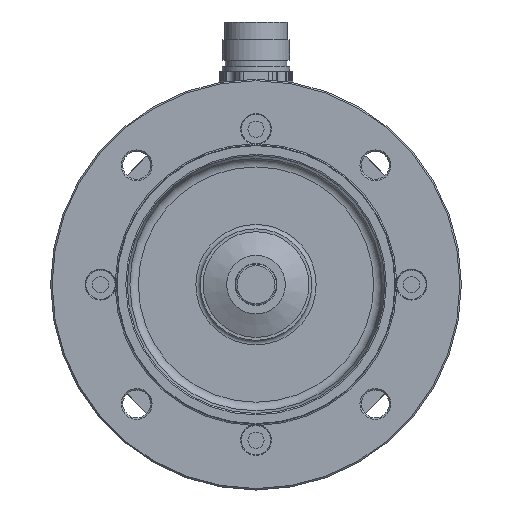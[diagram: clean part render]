
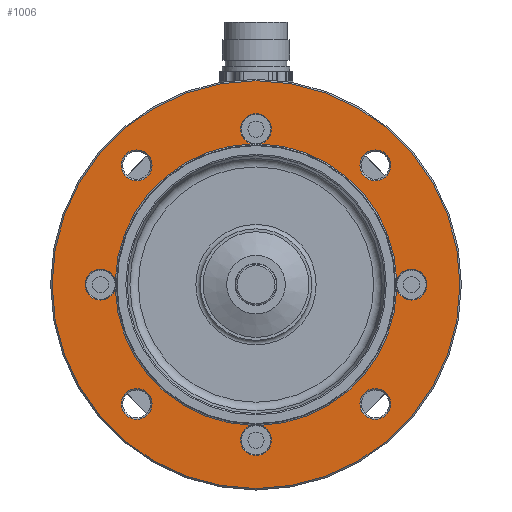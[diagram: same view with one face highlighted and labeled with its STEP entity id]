
A CAD part, front view. The second image highlights one B-rep face of the part: STEP entity #1006.
In plain terms, the highlighted planar face has unit normal (0, -1, 0).
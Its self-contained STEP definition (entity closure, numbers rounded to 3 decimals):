
#439=PLANE('',#5824);
#534=FACE_BOUND('',#1852,.T.);
#535=FACE_BOUND('',#1853,.T.);
#536=FACE_BOUND('',#1854,.T.);
#537=FACE_BOUND('',#1855,.T.);
#538=FACE_BOUND('',#1856,.T.);
#1006=ADVANCED_FACE('',(#1585,#534,#535,#536,#537,#538),#439,.T.);
#1585=FACE_OUTER_BOUND('',#1851,.T.);
#1851=EDGE_LOOP('',(#3099));
#1852=EDGE_LOOP('',(#3100,#3101,#3102,#3103,#3104,#3105,#3106,#3107));
#1853=EDGE_LOOP('',(#3108));
#1854=EDGE_LOOP('',(#3109));
#1855=EDGE_LOOP('',(#3110));
#1856=EDGE_LOOP('',(#3111));
#2582=CIRCLE('',#5811,69.5);
#2583=CIRCLE('',#5812,5.25);
#2584=CIRCLE('',#5813,48.);
#2585=CIRCLE('',#5814,5.25);
#2586=CIRCLE('',#5815,48.);
#2587=CIRCLE('',#5816,5.25);
#2588=CIRCLE('',#5817,48.);
#2589=CIRCLE('',#5818,5.25);
#2590=CIRCLE('',#5819,48.);
#2591=CIRCLE('',#5820,5.25);
#2592=CIRCLE('',#5821,5.25);
#2593=CIRCLE('',#5822,5.25);
#2594=CIRCLE('',#5823,5.25);
#3099=ORIENTED_EDGE('',*,*,#4936,.T.);
#3100=ORIENTED_EDGE('',*,*,#4937,.T.);
#3101=ORIENTED_EDGE('',*,*,#4938,.T.);
#3102=ORIENTED_EDGE('',*,*,#4939,.T.);
#3103=ORIENTED_EDGE('',*,*,#4940,.T.);
#3104=ORIENTED_EDGE('',*,*,#4941,.T.);
#3105=ORIENTED_EDGE('',*,*,#4942,.T.);
#3106=ORIENTED_EDGE('',*,*,#4943,.T.);
#3107=ORIENTED_EDGE('',*,*,#4944,.T.);
#3108=ORIENTED_EDGE('',*,*,#4945,.T.);
#3109=ORIENTED_EDGE('',*,*,#4946,.T.);
#3110=ORIENTED_EDGE('',*,*,#4947,.T.);
#3111=ORIENTED_EDGE('',*,*,#4948,.T.);
#4397=VERTEX_POINT('',#8667);
#4398=VERTEX_POINT('',#8669);
#4399=VERTEX_POINT('',#8670);
#4400=VERTEX_POINT('',#8672);
#4401=VERTEX_POINT('',#8674);
#4402=VERTEX_POINT('',#8676);
#4403=VERTEX_POINT('',#8678);
#4404=VERTEX_POINT('',#8680);
#4405=VERTEX_POINT('',#8682);
#4406=VERTEX_POINT('',#8685);
#4407=VERTEX_POINT('',#8687);
#4408=VERTEX_POINT('',#8689);
#4409=VERTEX_POINT('',#8691);
#4936=EDGE_CURVE('',#4397,#4397,#2582,.T.);
#4937=EDGE_CURVE('',#4398,#4399,#2583,.T.);
#4938=EDGE_CURVE('',#4399,#4400,#2584,.T.);
#4939=EDGE_CURVE('',#4400,#4401,#2585,.T.);
#4940=EDGE_CURVE('',#4401,#4402,#2586,.T.);
#4941=EDGE_CURVE('',#4402,#4403,#2587,.T.);
#4942=EDGE_CURVE('',#4403,#4404,#2588,.T.);
#4943=EDGE_CURVE('',#4404,#4405,#2589,.T.);
#4944=EDGE_CURVE('',#4405,#4398,#2590,.T.);
#4945=EDGE_CURVE('',#4406,#4406,#2591,.T.);
#4946=EDGE_CURVE('',#4407,#4407,#2592,.T.);
#4947=EDGE_CURVE('',#4408,#4408,#2593,.T.);
#4948=EDGE_CURVE('',#4409,#4409,#2594,.T.);
#5811=AXIS2_PLACEMENT_3D('',#8666,#6744,#6745);
#5812=AXIS2_PLACEMENT_3D('',#8668,#6746,#6747);
#5813=AXIS2_PLACEMENT_3D('',#8671,#6748,#6749);
#5814=AXIS2_PLACEMENT_3D('',#8673,#6750,#6751);
#5815=AXIS2_PLACEMENT_3D('',#8675,#6752,#6753);
#5816=AXIS2_PLACEMENT_3D('',#8677,#6754,#6755);
#5817=AXIS2_PLACEMENT_3D('',#8679,#6756,#6757);
#5818=AXIS2_PLACEMENT_3D('',#8681,#6758,#6759);
#5819=AXIS2_PLACEMENT_3D('',#8683,#6760,#6761);
#5820=AXIS2_PLACEMENT_3D('',#8684,#6762,#6763);
#5821=AXIS2_PLACEMENT_3D('',#8686,#6764,#6765);
#5822=AXIS2_PLACEMENT_3D('',#8688,#6766,#6767);
#5823=AXIS2_PLACEMENT_3D('',#8690,#6768,#6769);
#5824=AXIS2_PLACEMENT_3D('',#8692,#6770,#6771);
#6744=DIRECTION('',(0.,-1.,0.));
#6745=DIRECTION('',(0.,0.,-1.));
#6746=DIRECTION('',(0.,1.,0.));
#6747=DIRECTION('',(0.,0.,-1.));
#6748=DIRECTION('',(0.,1.,0.));
#6749=DIRECTION('',(0.,0.,-1.));
#6750=DIRECTION('',(0.,1.,0.));
#6751=DIRECTION('',(0.,0.,-1.));
#6752=DIRECTION('',(0.,1.,0.));
#6753=DIRECTION('',(0.,0.,-1.));
#6754=DIRECTION('',(0.,1.,0.));
#6755=DIRECTION('',(0.,0.,-1.));
#6756=DIRECTION('',(0.,1.,0.));
#6757=DIRECTION('',(0.,0.,-1.));
#6758=DIRECTION('',(0.,1.,0.));
#6759=DIRECTION('',(0.,0.,-1.));
#6760=DIRECTION('',(0.,1.,0.));
#6761=DIRECTION('',(0.,0.,-1.));
#6762=DIRECTION('',(0.,1.,0.));
#6763=DIRECTION('',(0.,0.,-1.));
#6764=DIRECTION('',(0.,1.,0.));
#6765=DIRECTION('',(0.,0.,-1.));
#6766=DIRECTION('',(0.,1.,0.));
#6767=DIRECTION('',(0.,0.,-1.));
#6768=DIRECTION('',(0.,1.,0.));
#6769=DIRECTION('',(0.,0.,-1.));
#6770=DIRECTION('',(0.,-1.,0.));
#6771=DIRECTION('',(0.,0.,-1.));
#8666=CARTESIAN_POINT('',(0.,0.,0.));
#8667=CARTESIAN_POINT('',(0.,0.,-69.5));
#8668=CARTESIAN_POINT('',(0.,0.,-53.));
#8669=CARTESIAN_POINT('',(1.523,0.,-47.976));
#8670=CARTESIAN_POINT('',(-1.523,0.,-47.976));
#8671=CARTESIAN_POINT('',(0.,0.,0.));
#8672=CARTESIAN_POINT('',(-47.976,0.,-1.523));
#8673=CARTESIAN_POINT('',(-53.,0.,0.));
#8674=CARTESIAN_POINT('',(-47.976,0.,1.523));
#8675=CARTESIAN_POINT('',(0.,0.,0.));
#8676=CARTESIAN_POINT('',(-1.523,0.,47.976));
#8677=CARTESIAN_POINT('',(0.,0.,53.));
#8678=CARTESIAN_POINT('',(1.523,0.,47.976));
#8679=CARTESIAN_POINT('',(0.,0.,0.));
#8680=CARTESIAN_POINT('',(47.976,0.,1.523));
#8681=CARTESIAN_POINT('',(53.,0.,0.));
#8682=CARTESIAN_POINT('',(47.976,0.,-1.523));
#8683=CARTESIAN_POINT('',(0.,0.,0.));
#8684=CARTESIAN_POINT('',(-40.659,0.,-40.659));
#8685=CARTESIAN_POINT('',(-40.659,0.,-45.909));
#8686=CARTESIAN_POINT('',(-40.659,0.,40.659));
#8687=CARTESIAN_POINT('',(-40.659,0.,35.409));
#8688=CARTESIAN_POINT('',(40.659,0.,-40.659));
#8689=CARTESIAN_POINT('',(40.659,0.,-45.909));
#8690=CARTESIAN_POINT('',(40.659,0.,40.659));
#8691=CARTESIAN_POINT('',(40.659,0.,35.409));
#8692=CARTESIAN_POINT('',(0.,0.,0.));
